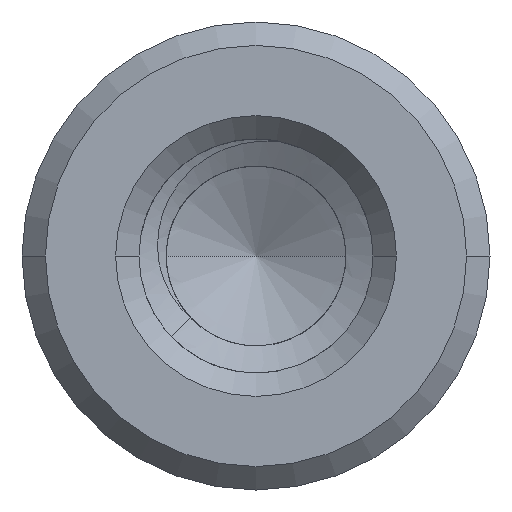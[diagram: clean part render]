
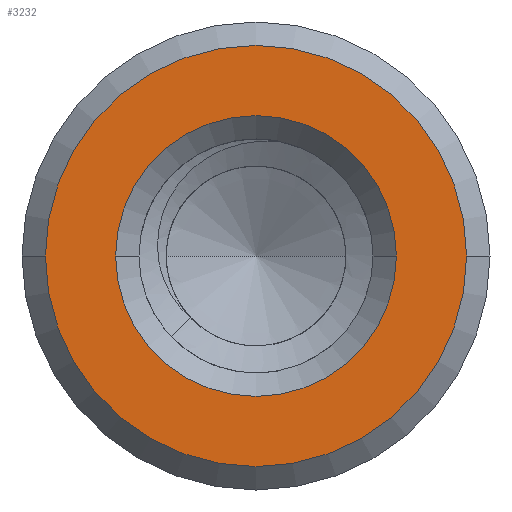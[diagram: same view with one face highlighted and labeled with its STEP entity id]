
A CAD part, front view. The second image highlights one B-rep face of the part: STEP entity #3232.
In plain terms, the highlighted planar face has unit normal (0, -1, 0).
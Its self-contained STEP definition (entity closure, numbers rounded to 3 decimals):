
#1=CARTESIAN_POINT('',(0.,-25.4,0.));
#2=DIRECTION('',(0.,1.,0.));
#3=DIRECTION('',(-1.,0.,0.));
#4=AXIS2_PLACEMENT_3D('',#1,#2,#3);
#6=CARTESIAN_POINT('',(0.,-25.4,0.));
#7=DIRECTION('',(0.,1.,0.));
#8=DIRECTION('',(1.,0.,0.));
#9=AXIS2_PLACEMENT_3D('',#6,#7,#8);
#11=CARTESIAN_POINT('',(0.,-25.4,0.));
#12=DIRECTION('',(0.,-1.,0.));
#13=DIRECTION('',(1.,0.,0.));
#14=AXIS2_PLACEMENT_3D('',#11,#12,#13);
#16=CARTESIAN_POINT('',(0.,-25.4,0.));
#17=DIRECTION('',(0.,-1.,0.));
#18=DIRECTION('',(-1.,0.,0.));
#19=AXIS2_PLACEMENT_3D('',#16,#17,#18);
#3191=CARTESIAN_POINT('',(-1.8,-25.4,0.));
#3192=CARTESIAN_POINT('',(1.8,-25.4,0.));
#3193=VERTEX_POINT('',#3191);
#3194=VERTEX_POINT('',#3192);
#3199=CARTESIAN_POINT('',(2.7,-25.4,0.));
#3200=CARTESIAN_POINT('',(-2.7,-25.4,0.));
#3201=VERTEX_POINT('',#3199);
#3202=VERTEX_POINT('',#3200);
#3215=CARTESIAN_POINT('',(0.,-25.4,0.));
#3216=DIRECTION('',(0.,1.,0.));
#3217=DIRECTION('',(1.,0.,0.));
#3218=AXIS2_PLACEMENT_3D('',#3215,#3216,#3217);
#3219=PLANE('',#3218);
#3221=ORIENTED_EDGE('',*,*,#3220,.F.);
#3223=ORIENTED_EDGE('',*,*,#3222,.F.);
#3224=EDGE_LOOP('',(#3221,#3223));
#3225=FACE_OUTER_BOUND('',#3224,.F.);
#3227=ORIENTED_EDGE('',*,*,#3226,.F.);
#3229=ORIENTED_EDGE('',*,*,#3228,.F.);
#3230=EDGE_LOOP('',(#3227,#3229));
#3231=FACE_BOUND('',#3230,.F.);
#3232=ADVANCED_FACE('',(#3225,#3231),#3219,.F.);
#5=CIRCLE('',#4,1.8);
#10=CIRCLE('',#9,1.8);
#15=CIRCLE('',#14,2.7);
#20=CIRCLE('',#19,2.7);
#3220=EDGE_CURVE('',#3201,#3202,#15,.T.);
#3222=EDGE_CURVE('',#3202,#3201,#20,.T.);
#3226=EDGE_CURVE('',#3193,#3194,#5,.T.);
#3228=EDGE_CURVE('',#3194,#3193,#10,.T.);
